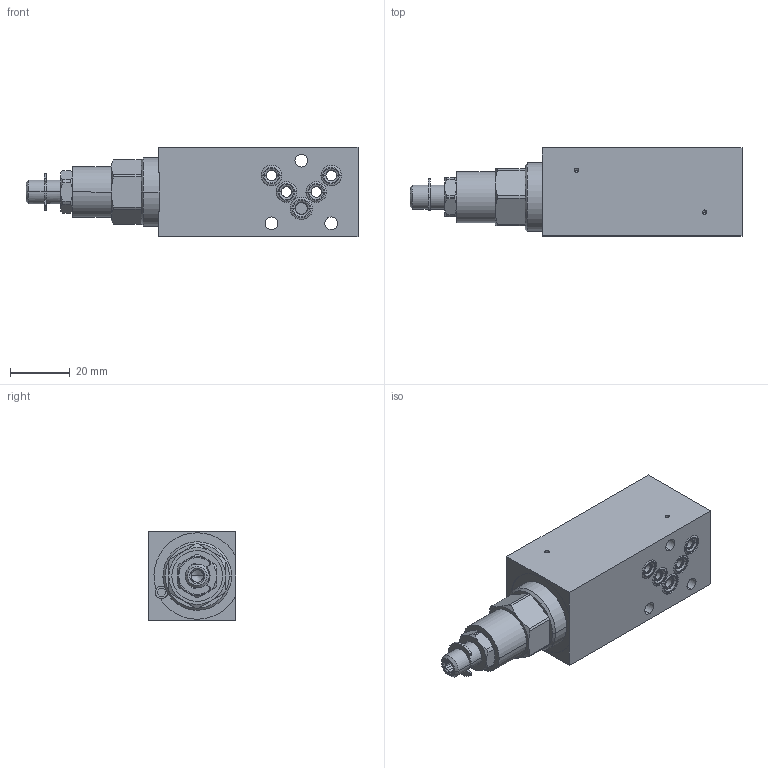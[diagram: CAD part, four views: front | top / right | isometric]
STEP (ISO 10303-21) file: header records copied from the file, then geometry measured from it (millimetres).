
FILE_DESCRIPTION (( 'STEP AP214' ), '1' );
FILE_NAME ('G.SSA03-A.STEP', '2017-03-23T07:31:49', ( '' ), ( '' ), 'SwSTEP 2.0', 'SolidWorks 2016', '' );
FILE_SCHEMA (( 'AUTOMOTIVE_DESIGN' ));
Length unit declared in the file: millimetre
Products named in the file (1): G.SSA03-A
Bounding box: 111.3 x 29.5 x 30 mm (x, y, z)
Volume: 65948.7 mm3; surface area: 15773.3 mm2
Topology: 8 solids, 11 shells, 314 faces, 761 edges, 468 vertices
Faces by surface type: cylinder 130, plane 93, cone 47, bspline 40, sphere 4
Entity records: 13519 total; most frequent: CARTESIAN_POINT 2836, DIRECTION 1515, ORIENTED_EDGE 1490, EDGE_CURVE 745, AXIS2_PLACEMENT_3D 621, VERTEX_POINT 468, EDGE_LOOP 361, CIRCLE 346
